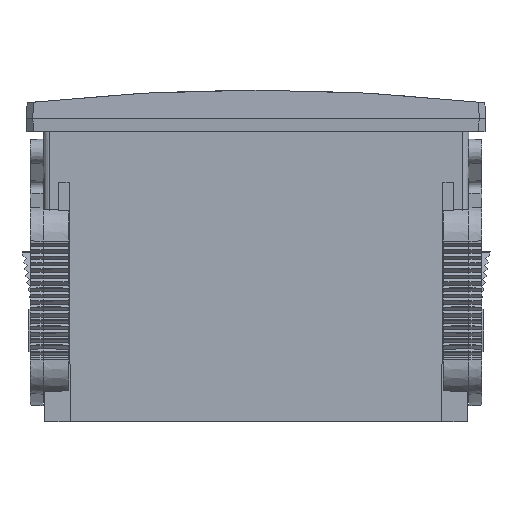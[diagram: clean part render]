
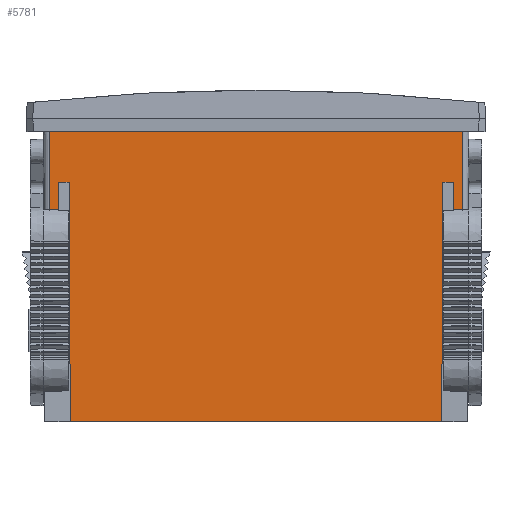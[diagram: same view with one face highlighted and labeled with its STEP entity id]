
A CAD part, top view. The second image highlights one B-rep face of the part: STEP entity #5781.
In plain terms, the highlighted planar face has unit normal (0, -0.005, 1).
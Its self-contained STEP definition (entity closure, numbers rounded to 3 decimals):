
#75 = VERTEX_POINT ( 'NONE', #11641 ) ;
#206 = CARTESIAN_POINT ( 'NONE',  ( 29.33, -9.989, 15.858 ) ) ;
#335 = AXIS2_PLACEMENT_3D ( 'NONE', #919, #8186, #4302 ) ;
#397 = VECTOR ( 'NONE', #539, 1000. ) ;
#539 = DIRECTION ( 'NONE',  ( 0., 1., 0.005 ) ) ;
#803 = FACE_OUTER_BOUND ( 'NONE', #23062, .T. ) ;
#822 = VECTOR ( 'NONE', #19744, 1000. ) ;
#907 = LINE ( 'NONE', #17591, #5831 ) ;
#919 = CARTESIAN_POINT ( 'NONE',  ( 33.4, -2., 15.9 ) ) ;
#1504 = VECTOR ( 'NONE', #12565, 1000. ) ;
#1601 = DIRECTION ( 'NONE',  ( 0., -1., -0.005 ) ) ;
#2205 = VECTOR ( 'NONE', #1601, 1000. ) ;
#2302 = CARTESIAN_POINT ( 'NONE',  ( 33.4, -47.5, 15.662 ) ) ;
#2520 = VERTEX_POINT ( 'NONE', #9743 ) ;
#2581 = EDGE_CURVE ( 'NONE', #23045, #8747, #20598, .T. ) ;
#2664 = CARTESIAN_POINT ( 'NONE',  ( -30.93, -9.989, 15.858 ) ) ;
#2719 = CARTESIAN_POINT ( 'NONE',  ( -32.4, -34.5, 15.73 ) ) ;
#2869 = EDGE_CURVE ( 'NONE', #7493, #17690, #17672, .T. ) ;
#3138 = CARTESIAN_POINT ( 'NONE',  ( 30.93, -9.994, 15.858 ) ) ;
#3272 =( BOUNDED_CURVE ( )  B_SPLINE_CURVE ( 3, ( #12087, #23328, #4834, #23090 ),
 .UNSPECIFIED., .F., .F. ) 
 B_SPLINE_CURVE_WITH_KNOTS ( ( 4, 4 ),
 ( 4.718, 6.283 ),
 .UNSPECIFIED. ) 
 CURVE ( )  GEOMETRIC_REPRESENTATION_ITEM ( )  RATIONAL_B_SPLINE_CURVE ( ( 1., 0.806, 0.806, 1. ) ) 
 REPRESENTATION_ITEM ( '' )  );
#3567 = CARTESIAN_POINT ( 'NONE',  ( 29.133, -47.5, 15.662 ) ) ;
#4251 = VERTEX_POINT ( 'NONE', #3567 ) ;
#4302 = DIRECTION ( 'NONE',  ( 0., -1., -0.005 ) ) ;
#4648 = CARTESIAN_POINT ( 'NONE',  ( 32.4, -34.5, 15.73 ) ) ;
#4719 = CARTESIAN_POINT ( 'NONE',  ( 32.4, -2., 15.9 ) ) ;
#4834 = CARTESIAN_POINT ( 'NONE',  ( 31.47, -34.5, 15.73 ) ) ;
#5054 = VERTEX_POINT ( 'NONE', #18156 ) ;
#5318 = LINE ( 'NONE', #3138, #1504 ) ;
#5332 = EDGE_CURVE ( 'NONE', #23045, #22920, #22833, .T. ) ;
#5341 = EDGE_CURVE ( 'NONE', #15918, #4251, #11943, .T. ) ;
#5489 = VERTEX_POINT ( 'NONE', #12310 ) ;
#5517 = LINE ( 'NONE', #12884, #12406 ) ;
#5641 = CARTESIAN_POINT ( 'NONE',  ( -30.93, -9.994, 15.858 ) ) ;
#5781 = ADVANCED_FACE ( 'NONE', ( #803 ), #17494, .T. ) ;
#5831 = VECTOR ( 'NONE', #17712, 1000. ) ;
#6013 = VERTEX_POINT ( 'NONE', #18330 ) ;
#6162 = CARTESIAN_POINT ( 'NONE',  ( -33.23, -34.5, 15.73 ) ) ;
#6517 = ORIENTED_EDGE ( 'NONE', *, *, #5332, .F. ) ;
#6684 = CARTESIAN_POINT ( 'NONE',  ( -29.33, -9.994, 15.858 ) ) ;
#6844 = CARTESIAN_POINT ( 'NONE',  ( -32.053, -34.5, 15.73 ) ) ;
#7223 = EDGE_CURVE ( 'NONE', #5054, #15918, #5517, .T. ) ;
#7319 = CARTESIAN_POINT ( 'NONE',  ( -31.053, -33.505, 15.735 ) ) ;
#7493 = VERTEX_POINT ( 'NONE', #4648 ) ;
#8186 = DIRECTION ( 'NONE',  ( 0., -0.005, 1. ) ) ;
#8215 = DIRECTION ( 'NONE',  ( -1., 0., 0. ) ) ;
#8537 = CARTESIAN_POINT ( 'NONE',  ( -31.056, -34.089, 15.732 ) ) ;
#8622 = EDGE_CURVE ( 'NONE', #17690, #5489, #907, .T. ) ;
#8655 = CARTESIAN_POINT ( 'NONE',  ( -31.053, -33.505, 15.735 ) ) ;
#8660 = DIRECTION ( 'NONE',  ( -1., 0., 0. ) ) ;
#8747 = VERTEX_POINT ( 'NONE', #7319 ) ;
#8894 = LINE ( 'NONE', #19902, #11745 ) ;
#9156 = DIRECTION ( 'NONE',  ( -0.005, -1., -0.005 ) ) ;
#9358 = EDGE_CURVE ( 'NONE', #18001, #8747, #18472, .T. ) ;
#9743 = CARTESIAN_POINT ( 'NONE',  ( 32.053, -34.5, 15.73 ) ) ;
#9756 = EDGE_CURVE ( 'NONE', #22863, #18001, #8894, .T. ) ;
#10238 = EDGE_CURVE ( 'NONE', #5489, #22920, #12606, .T. ) ;
#10484 = EDGE_CURVE ( 'NONE', #6013, #2520, #3272, .T. ) ;
#10987 = ORIENTED_EDGE ( 'NONE', *, *, #16923, .F. ) ;
#11641 = CARTESIAN_POINT ( 'NONE',  ( -29.133, -47.5, 15.662 ) ) ;
#11745 = VECTOR ( 'NONE', #20379, 1000. ) ;
#11943 = LINE ( 'NONE', #19219, #14384 ) ;
#12087 = CARTESIAN_POINT ( 'NONE',  ( 31.053, -33.505, 15.735 ) ) ;
#12310 = CARTESIAN_POINT ( 'NONE',  ( -32.4, -2., 15.9 ) ) ;
#12406 = VECTOR ( 'NONE', #20511, 1000. ) ;
#12565 = DIRECTION ( 'NONE',  ( -0.005, 1., 0.005 ) ) ;
#12606 = LINE ( 'NONE', #20232, #2205 ) ;
#12684 = ORIENTED_EDGE ( 'NONE', *, *, #9756, .F. ) ;
#12884 = CARTESIAN_POINT ( 'NONE',  ( 30.93, -9.989, 15.858 ) ) ;
#13301 = LINE ( 'NONE', #2302, #17645 ) ;
#13395 = ORIENTED_EDGE ( 'NONE', *, *, #21132, .F. ) ;
#13418 = DIRECTION ( 'NONE',  ( -1., 0., 0. ) ) ;
#14034 = ORIENTED_EDGE ( 'NONE', *, *, #9358, .F. ) ;
#14070 = CARTESIAN_POINT ( 'NONE',  ( -32.053, -34.5, 15.73 ) ) ;
#14155 = LINE ( 'NONE', #6684, #822 ) ;
#14169 = CARTESIAN_POINT ( 'NONE',  ( 32.4, -2., 15.9 ) ) ;
#14191 = ORIENTED_EDGE ( 'NONE', *, *, #5341, .F. ) ;
#14384 = VECTOR ( 'NONE', #19574, 1000. ) ;
#14424 = ORIENTED_EDGE ( 'NONE', *, *, #7223, .F. ) ;
#14744 = EDGE_CURVE ( 'NONE', #75, #22863, #14155, .T. ) ;
#14959 = ORIENTED_EDGE ( 'NONE', *, *, #14744, .F. ) ;
#15918 = VERTEX_POINT ( 'NONE', #206 ) ;
#16703 = ORIENTED_EDGE ( 'NONE', *, *, #2869, .T. ) ;
#16923 = EDGE_CURVE ( 'NONE', #6013, #5054, #5318, .T. ) ;
#17494 = PLANE ( 'NONE',  #335 ) ;
#17526 = ORIENTED_EDGE ( 'NONE', *, *, #10238, .T. ) ;
#17591 = CARTESIAN_POINT ( 'NONE',  ( 33.4, -2., 15.9 ) ) ;
#17640 = VECTOR ( 'NONE', #8660, 1000. ) ;
#17645 = VECTOR ( 'NONE', #13418, 1000. ) ;
#17672 = LINE ( 'NONE', #4719, #397 ) ;
#17690 = VERTEX_POINT ( 'NONE', #14169 ) ;
#17712 = DIRECTION ( 'NONE',  ( -1., 0., 0. ) ) ;
#18001 = VERTEX_POINT ( 'NONE', #2664 ) ;
#18076 = ORIENTED_EDGE ( 'NONE', *, *, #10484, .T. ) ;
#18156 = CARTESIAN_POINT ( 'NONE',  ( 30.93, -9.989, 15.858 ) ) ;
#18330 = CARTESIAN_POINT ( 'NONE',  ( 31.053, -33.505, 15.735 ) ) ;
#18472 = LINE ( 'NONE', #5641, #23308 ) ;
#18791 = ORIENTED_EDGE ( 'NONE', *, *, #22514, .F. ) ;
#19219 = CARTESIAN_POINT ( 'NONE',  ( 29.33, -9.994, 15.858 ) ) ;
#19325 = ORIENTED_EDGE ( 'NONE', *, *, #2581, .T. ) ;
#19574 = DIRECTION ( 'NONE',  ( -0.005, -1., -0.005 ) ) ;
#19744 = DIRECTION ( 'NONE',  ( -0.005, 1., 0.005 ) ) ;
#19902 = CARTESIAN_POINT ( 'NONE',  ( -30.93, -9.989, 15.858 ) ) ;
#19904 = CARTESIAN_POINT ( 'NONE',  ( -31.47, -34.5, 15.73 ) ) ;
#20232 = CARTESIAN_POINT ( 'NONE',  ( -32.4, -2., 15.9 ) ) ;
#20271 = ORIENTED_EDGE ( 'NONE', *, *, #8622, .T. ) ;
#20379 = DIRECTION ( 'NONE',  ( -1., 0., 0. ) ) ;
#20511 = DIRECTION ( 'NONE',  ( -1., 0., 0. ) ) ;
#20577 = VECTOR ( 'NONE', #8215, 1000. ) ;
#20598 =( BOUNDED_CURVE ( )  B_SPLINE_CURVE ( 3, ( #6844, #19904, #8537, #8655 ),
 .UNSPECIFIED., .F., .F. ) 
 B_SPLINE_CURVE_WITH_KNOTS ( ( 4, 4 ),
 ( 0., 1.566 ),
 .UNSPECIFIED. ) 
 CURVE ( )  GEOMETRIC_REPRESENTATION_ITEM ( )  RATIONAL_B_SPLINE_CURVE ( ( 1., 0.806, 0.806, 1. ) ) 
 REPRESENTATION_ITEM ( '' )  );
#21120 = LINE ( 'NONE', #21363, #17640 ) ;
#21132 = EDGE_CURVE ( 'NONE', #4251, #75, #13301, .T. ) ;
#21363 = CARTESIAN_POINT ( 'NONE',  ( 33.23, -34.5, 15.73 ) ) ;
#22438 = CARTESIAN_POINT ( 'NONE',  ( -29.33, -9.989, 15.858 ) ) ;
#22514 = EDGE_CURVE ( 'NONE', #7493, #2520, #21120, .T. ) ;
#22833 = LINE ( 'NONE', #6162, #20577 ) ;
#22863 = VERTEX_POINT ( 'NONE', #22438 ) ;
#22920 = VERTEX_POINT ( 'NONE', #2719 ) ;
#23045 = VERTEX_POINT ( 'NONE', #14070 ) ;
#23062 = EDGE_LOOP ( 'NONE', ( #6517, #19325, #14034, #12684, #14959, #13395, #14191, #14424, #10987, #18076, #18791, #16703, #20271, #17526 ) ) ;
#23090 = CARTESIAN_POINT ( 'NONE',  ( 32.053, -34.5, 15.73 ) ) ;
#23308 = VECTOR ( 'NONE', #9156, 1000. ) ;
#23328 = CARTESIAN_POINT ( 'NONE',  ( 31.056, -34.089, 15.732 ) ) ;
